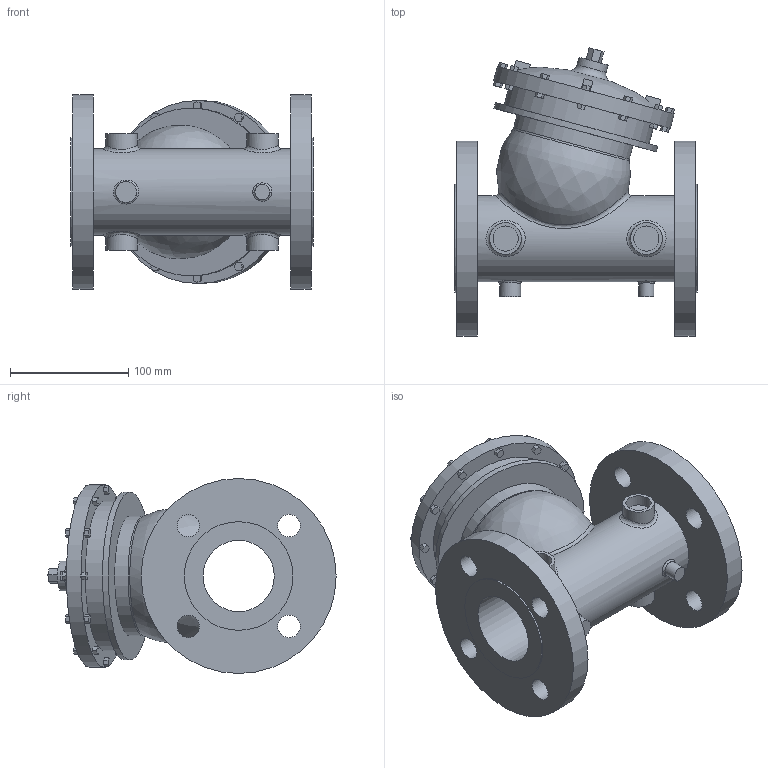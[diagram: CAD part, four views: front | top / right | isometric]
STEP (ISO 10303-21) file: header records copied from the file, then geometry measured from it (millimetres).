
FILE_DESCRIPTION(/* description */ ('VIC FP VALVE PRESSURE RELIEF SERIES 867-7UF (FLG 150)','CAx-IF Rec.Pracs.---Representation and Presentation of Product Manufacturing Information (PMI)---4.0---2014-10-13'),/* implementation_level */ '2;1');
FILE_NAME(/* name */ 'C:\Series 867-7UF\New folder (2)\step\Victaulic_FP-Bermad_Valve Pressure Relief_Series 867-7UF (FLG 150)\Victaulic_FP-Bermad_Valve Pressure Relief_Series 867-7UF (FLG 150)_2 (50).stp',/* time_stamp */ '2021-09-02T12:08:58+06:00',/* author */ ('kkamble'),/* organization */ ('Victaulic'),/* preprocessor_version */ 'ST-DEVELOPER v17.2',/* originating_system */ 'Autodesk Inventor 2019',/* authorisation */ '');
FILE_SCHEMA (('AP242_MANAGED_MODEL_BASED_3D_ENGINEERING_MIM_LF { 1 0 10303 442 1 1 4 }'));
Length unit declared in the file: inch
Products named in the file (1): 867-7UF-02.0
Bounding box: 204.98 x 244.1 x 165.1 mm (x, y, z)
Volume: 2102763.8 mm3; surface area: 253518.8 mm2
Topology: 1 solids, 1 shells, 261 faces, 665 edges, 451 vertices
Faces by surface type: plane 220, cylinder 30, bspline 9, torus 2
Full cylindrical faces by diameter (mm): 12.7 x1, 17.78 x1, 19.05 x8, 21.336 x4, 25.4 x1, 26.873 x4, 60.325 x1, 73.025 x1, 91.948 x2, 101.6 x1, 127 x1, 142.24 x1, 154.94 x1, 165.1 x2
Entity records: 9356 total; most frequent: CARTESIAN_POINT 2544, ORIENTED_EDGE 1342, DIRECTION 1260, EDGE_CURVE 671, LINE 532, VECTOR 532, VERTEX_POINT 457, AXIS2_PLACEMENT_3D 364
